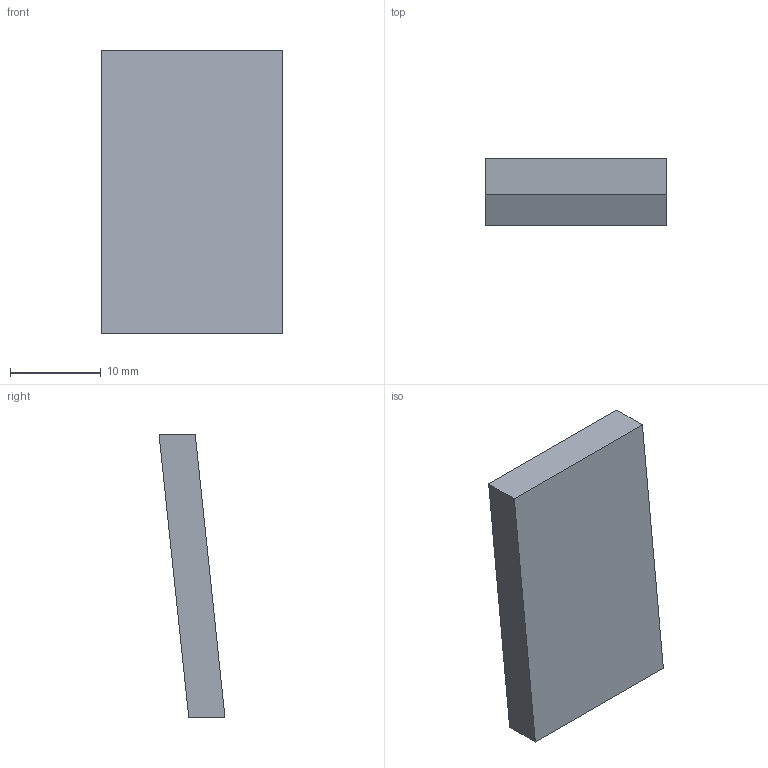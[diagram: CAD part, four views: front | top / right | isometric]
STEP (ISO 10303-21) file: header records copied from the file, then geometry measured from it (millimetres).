
FILE_DESCRIPTION(('Open CASCADE Model'),'2;1');
FILE_NAME('Open CASCADE Shape Model','2026-10-16T00:30:56',('Author'),( 'Open CASCADE'),'Open CASCADE STEP processor 7.9','Open CASCADE 7.9' ,'Unknown');
FILE_SCHEMA(('AUTOMOTIVE_DESIGN { 1 0 10303 214 1 1 1 1 }'));
Length unit declared in the file: millimetre
Products named in the file (1): Open CASCADE STEP translator 7.9 38
Bounding box: 20 x 7.28 x 31.25 mm (x, y, z)
Volume: 2500 mm3; surface area: 1666.9 mm2
Topology: 1 solids, 1 shells, 6 faces, 12 edges, 8 vertices
Faces by surface type: plane 6
Entity records: 322 total; most frequent: CARTESIAN_POINT 51, DIRECTION 50, LINE 36, VECTOR 36, ORIENTED_EDGE 24, PCURVE 24, DEFINITIONAL_REPRESENTATION 24, EDGE_CURVE 12
